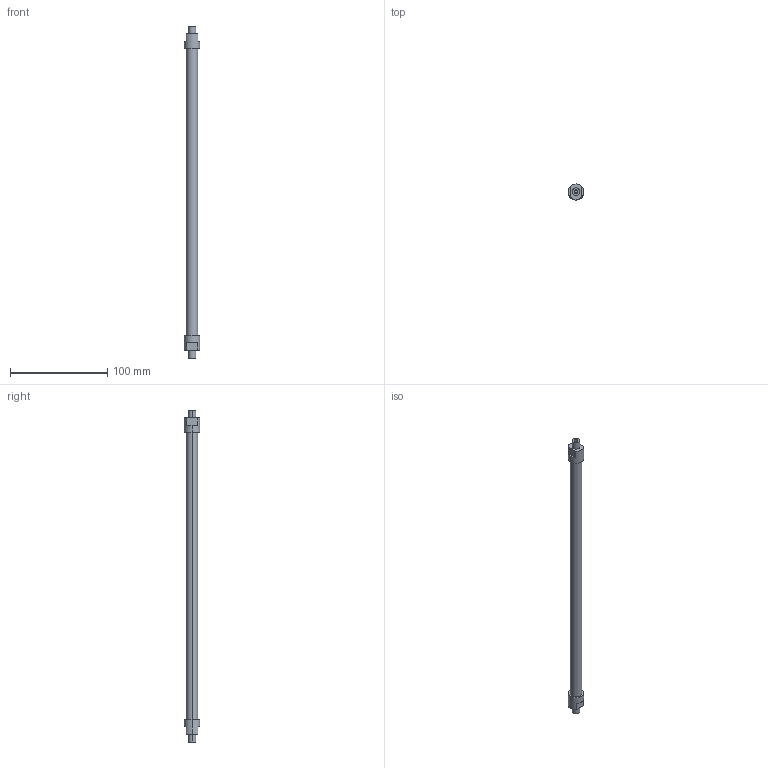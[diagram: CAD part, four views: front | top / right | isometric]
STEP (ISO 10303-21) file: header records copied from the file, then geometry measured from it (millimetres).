
FILE_DESCRIPTION(('STEP AP214'),'1');
FILE_NAME('ETT-R025G335.stp','2015-02-03T08:46:37',(' '),(' '),'Spatial InterOp 3D',' ',' ');
FILE_SCHEMA(('automotive_design'));
Length unit declared in the file: metre
Products named in the file (2): 1; 2
Bounding box: 16 x 16 x 342 mm (x, y, z)
Volume: 39638.2 mm3; surface area: 13999.4 mm2
Topology: 1 solids, 4 shells, 33 faces, 78 edges, 56 vertices
Faces by surface type: plane 17, cylinder 16
Entity records: 1292 total; most frequent: DIRECTION 192, CARTESIAN_POINT 169, ORIENTED_EDGE 144, AXIS2_PLACEMENT_3D 79, EDGE_CURVE 78, VERTEX_POINT 56, CIRCLE 44, EDGE_LOOP 40
